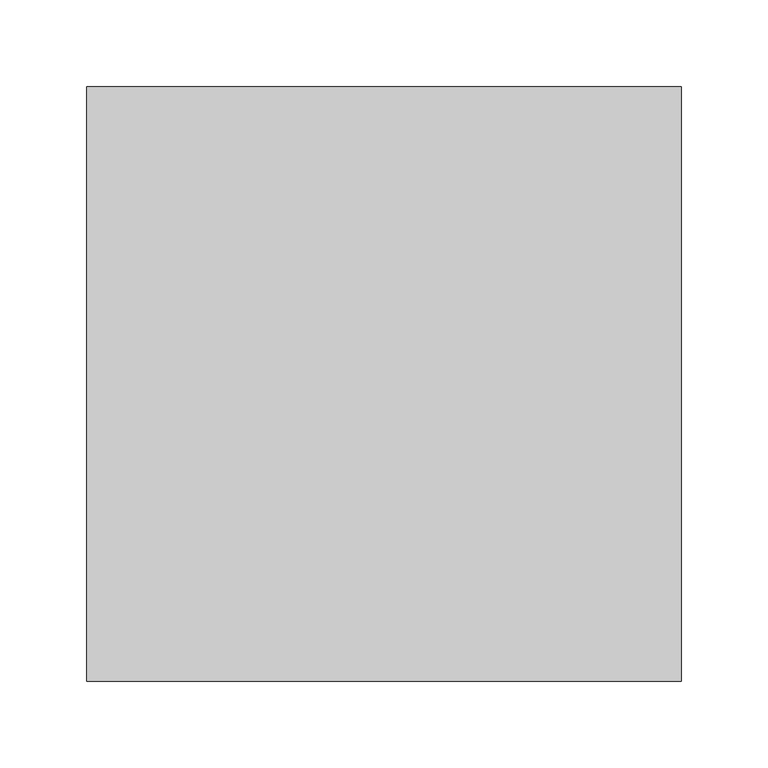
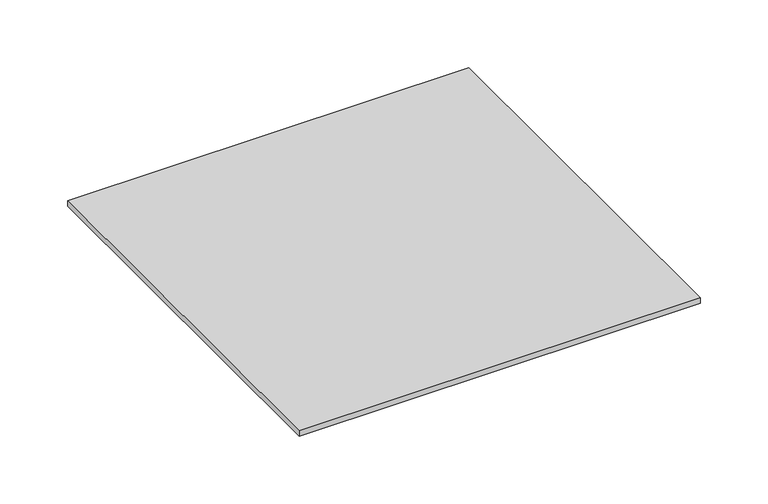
"""IFC4 building model written with IfcOpenShell, lengths in millimetres: air terminal geometry, AI_Bouche aération_Grille d'air neuf : 300x300 Grille de transfert."""

from ifc_helpers import new_model, si_unit, frame, origin, place, context, project, spatial, polyline, outline, extrude, source, transform, mapped, element, save


def air_terminal_d058e9c2(model_context):
    return source(origin(), model_context, "Body", "SweptSolid", [
        extrude(outline(polyline([(171.0, 171.0), (171.0, -171.0), (-171.0, -171.0), (-171.0, 171.0), (171.0, 171.0)])), frame((0.0, 0.0, -5.0), z_axis=(0.0, 0.0, 1.0), x_axis=(1.0, 0.0, 0.0)), (0.0, 0.0, 1.0), 5.0),
    ])


if __name__ == "__main__":
    model = new_model("IFC4")
    model_context = context("Model", 3, world=origin())
    ifc_project = project(units=[si_unit("LENGTHUNIT", "METRE", prefix="MILLI")], contexts=[model_context])
    site = spatial("IfcSite", under=ifc_project)
    building = spatial("IfcBuilding", under=site)
    placement = place(None, origin())
    air_terminal_shape = air_terminal_d058e9c2(model_context)
    element("IfcAirTerminal", 1, ObjectType="AI_Bouche aération_Grille d'air neuf : 300x300 Grille de transfert", at=placement, inside=building, context=model_context, shape_type="MappedRepresentation", body=[
        mapped(air_terminal_shape, transform((0.0, 0.0, 0.0), x_axis=(1.0, 0.0, 0.0), y_axis=(0.0, 1.0, 0.0), z_axis=(0.0, 0.0, 1.0))),
    ])
    save(model, "model.ifc")
